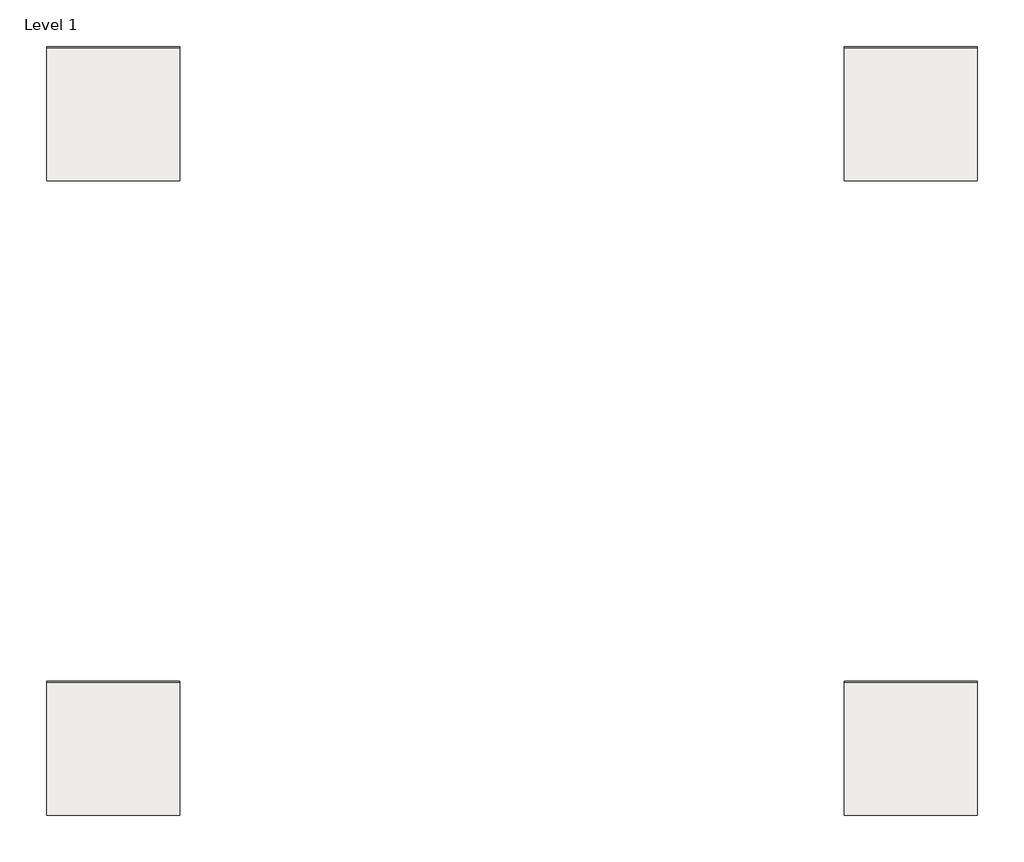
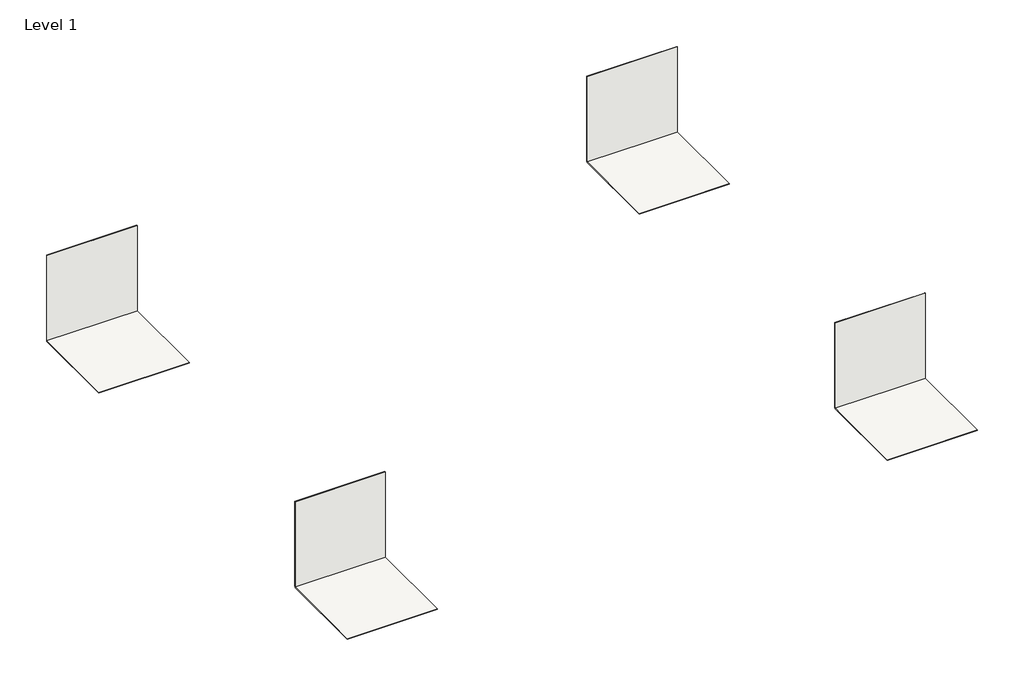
# One storey: 8 coverings.
"""IFC4 building model written with IfcOpenShell, lengths in millimetres."""

import ifcopenshell
import ifcopenshell.guid

model = None  # the IFC model being written
_history = None  # IfcOwnerHistory: only IFC2X3 demands one
_inside = {}  # id of a spatial element -> (the spatial element, [elements in it])
_under = {}  # id of a project, library or spatial element -> (it, [spatial elements below it])
_declared = {}  # id of a project -> (the project, [libraries it declares])
_typed = {}  # id of a type object -> (the type object, [elements of that type])
_made_of = {}  # id of a material, layer set ... -> (it, [elements and type objects made of it])


def new_model(schema):
    """Start an empty IFC model of exactly this schema.

    Asked for "IFC4X3", IfcOpenShell would pick the latest addendum, in which some entities
    have other attributes; the version numbers below select the first issue.
    IFC2X3 requires an IfcOwnerHistory on every rooted entity: one is made here for all.
    """
    global model, _history
    if schema == "IFC4X3":
        model = ifcopenshell.file(schema_version=(4, 3, 0, 0))
    else:
        model = ifcopenshell.file(schema=schema)
    _inside.clear()
    _under.clear()
    _declared.clear()
    _typed.clear()
    _made_of.clear()
    _history = None
    if model.schema == "IFC2X3":
        org = make("IfcOrganization", Name="unknown")
        user = make(
            "IfcPersonAndOrganization",
            ThePerson=make("IfcPerson", FamilyName="unknown"),
            TheOrganization=org,
        )
        app = make(
            "IfcApplication",
            ApplicationDeveloper=org,
            Version="unknown",
            ApplicationFullName="unknown",
            ApplicationIdentifier="unknown",
        )
        _history = make(
            "IfcOwnerHistory",
            OwningUser=user,
            OwningApplication=app,
            ChangeAction="ADDED",
            CreationDate=0,
        )
    return model


def make(cls, **values):
    """One entity of the class cls with the attributes given. An attribute that is None is left unset."""
    return model.create_entity(
        cls, **{name: value for name, value in values.items() if value is not None}
    )


def rooted(cls, **values):
    """An entity with a GlobalId (a new one), such as an element, a storey or a relation."""
    return make(cls, GlobalId=ifcopenshell.guid.new(), OwnerHistory=_history, **values)


def si_unit(unit_type, name, prefix=None):
    """IfcSIUnit, for example si_unit("LENGTHUNIT", "METRE", prefix="MILLI")."""
    return make("IfcSIUnit", UnitType=unit_type, Prefix=prefix, Name=name)


def assignment(units):
    """IfcUnitAssignment: the units of a project."""
    return None if units is None else make("IfcUnitAssignment", Units=units)


def point(xyz):
    """IfcCartesianPoint."""
    return None if xyz is None else make("IfcCartesianPoint", Coordinates=xyz)


def direction(xyz):
    """IfcDirection."""
    return None if xyz is None else make("IfcDirection", DirectionRatios=xyz)


def frame(location, z_axis=None, x_axis=None):
    """IfcAxis2Placement3D, a coordinate frame: its origin and axes. An axis left out is left unset."""
    return make(
        "IfcAxis2Placement3D",
        Location=point(location),
        Axis=direction(z_axis),
        RefDirection=direction(x_axis),
    )


def origin():
    """The frame at (0, 0, 0) with its axes left unset."""
    return frame((0.0, 0.0, 0.0))


def origin_with_axes():
    """The frame at (0, 0, 0) with the z axis (0, 0, 1) and the x axis (1, 0, 0) written out."""
    return frame((0.0, 0.0, 0.0), z_axis=(0.0, 0.0, 1.0), x_axis=(1.0, 0.0, 0.0))


def place(relative_to, where):
    """IfcLocalPlacement: puts the frame where relative to a parent placement (None: the world)."""
    return make(
        "IfcLocalPlacement", PlacementRelTo=relative_to, RelativePlacement=where
    )


def context(
    kind, dimensions, precision=None, world=None, true_north=None, identifier=None
):
    """IfcGeometricRepresentationContext, for example the 3D "Model" context."""
    return make(
        "IfcGeometricRepresentationContext",
        ContextIdentifier=identifier,
        ContextType=kind,
        CoordinateSpaceDimension=dimensions,
        Precision=precision,
        WorldCoordinateSystem=world,
        TrueNorth=true_north,
    )


def project(units=None, contexts=None):
    """IfcProject with its units and contexts."""
    return rooted(
        "IfcProject",
        Name="project",
        RepresentationContexts=contexts,
        UnitsInContext=assignment(units),
    )


def spatial(cls, under=None, at=None, **own):
    """A site, building, storey or space (cls), placed at a placement, below another one or the project."""
    s = rooted(cls, ObjectPlacement=at, **own)
    if under is not None:
        _under.setdefault(under.id(), (under, []))[1].append(s)
    return s


def polyline(points):
    """IfcPolyline through the points."""
    return make("IfcPolyline", Points=[point(p) for p in points])


def outline(outer, holes=None, kind="AREA"):
    """IfcArbitraryClosedProfileDef: a profile drawn as a closed curve; with holes, ...WithVoids."""
    if holes is None:
        return make("IfcArbitraryClosedProfileDef", ProfileType=kind, OuterCurve=outer)
    return make(
        "IfcArbitraryProfileDefWithVoids",
        ProfileType=kind,
        OuterCurve=outer,
        InnerCurves=holes,
    )


def extrude(swept, where, along, depth):
    """IfcExtrudedAreaSolid: the profile swept, set in the frame where, extruded along a direction by depth."""
    return make(
        "IfcExtrudedAreaSolid",
        SweptArea=swept,
        Position=where,
        ExtrudedDirection=direction(along),
        Depth=depth,
    )


def shape(context_of_items, identifier, shape_type, items):
    """IfcShapeRepresentation: the items that make up one representation, for example the "Body"."""
    return make(
        "IfcShapeRepresentation",
        ContextOfItems=context_of_items,
        RepresentationIdentifier=identifier,
        RepresentationType=shape_type,
        Items=items,
    )


def made_of(thing, what):
    """Note that an element or type object is made of a material, layer set ...; save() writes the relation."""
    if what is not None:
        _made_of.setdefault(what.id(), (what, []))[1].append(thing)
    return thing


def element(
    cls,
    number,
    at=None,
    inside=None,
    cuts=None,
    type_object=None,
    material=None,
    context=None,
    identifier="Body",
    shape_type=None,
    held_by="IfcProductDefinitionShape",
    body=None,
    shapes=None,
    **own,
):
    """One element of the class cls, such as IfcWall. Its Tag is "e" and its number.

    at: its placement. inside: the storey or other place that contains it. cuts: it is an
    opening in that element (IfcRelVoidsElement). A single representation is given by context,
    identifier, shape_type and body (its items); several are given by shapes. held_by: the class
    of the entity that holds the representations. save() writes the other relations.
    """
    e = rooted(cls, Tag="e%d" % number, ObjectPlacement=at, **own)
    if body is not None:
        shapes = [shape(context, identifier, shape_type, body)]
    if shapes is not None:
        e.Representation = make(held_by, Representations=shapes)
    if inside is not None:
        _inside.setdefault(inside.id(), (inside, []))[1].append(e)
    if cuts is not None:
        rooted(
            "IfcRelVoidsElement", RelatingBuildingElement=cuts, RelatedOpeningElement=e
        )
    if type_object is not None:
        _typed.setdefault(type_object.id(), (type_object, []))[1].append(e)
    return made_of(e, material)


def aggregate(whole, parts):
    """IfcRelAggregates: a whole, such as a stair, and the parts it consists of."""
    return rooted("IfcRelAggregates", RelatingObject=whole, RelatedObjects=parts)


def save(model, path):
    """Write the relations noted so far, then the file.

    IfcRelAggregates (storeys below a building ...), IfcRelContainedInSpatialStructure (elements
    in a storey), IfcRelDefinesByType, IfcRelAssociatesMaterial and IfcRelDeclares: one each for
    every whole, place, type object, material and project.
    """
    for whole, parts in _under.values():
        aggregate(whole, parts)
    for where, things in _inside.values():
        rooted(
            "IfcRelContainedInSpatialStructure",
            RelatedElements=things,
            RelatingStructure=where,
        )
    for kind, things in _typed.values():
        rooted("IfcRelDefinesByType", RelatedObjects=things, RelatingType=kind)
    for what, things in _made_of.values():
        rooted("IfcRelAssociatesMaterial", RelatedObjects=things, RelatingMaterial=what)
    for by, libraries in _declared.values():
        rooted("IfcRelDeclares", RelatingContext=by, RelatedDefinitions=libraries)
    model.write(path)


model = new_model("IFC4")

# Units and contexts
model_context = context("Model", 3, world=origin())
ifc_project = project(units=[si_unit("LENGTHUNIT", "METRE", prefix="MILLI")], contexts=[model_context])

# Site, building, storey
site = spatial("IfcSite", under=ifc_project)
building = spatial("IfcBuilding", under=site)
storey = spatial("IfcBuildingStorey", under=building, Name="Level 1", Elevation=0.0)

# Coverings
placement = place(None, origin())
element("IfcCovering", 1, ObjectType="LOVE TILES-SENSE-MOSAIC DECORATION-35X35-MATT-BEIGE", at=placement, inside=storey, context=model_context, shape_type="SweptSolid", body=[
    extrude(outline(polyline([(28997.0720096, -23254.2411714), (27997.0720096, -23254.2411714), (27997.0720096, -23246.2411714), (28997.0720096, -23246.2411714), (28997.0720096, -23254.2411714)])), origin_with_axes(), (0.0, 0.0, 1.0), 1000.0),
])
element("IfcCovering", 2, ObjectType="LOVE TILES-SENSE-MOSAIC DECORATION-35X35-MATT-GREY", at=placement, inside=storey, context=model_context, shape_type="SweptSolid", body=[
    extrude(outline(polyline([(34997.0720096, -23254.2411714), (33997.0720096, -23254.2411714), (33997.0720096, -23246.2411714), (34997.0720096, -23246.2411714), (34997.0720096, -23254.2411714)])), origin_with_axes(), (0.0, 0.0, 1.0), 1000.0),
])
element("IfcCovering", 3, ObjectType="LOVE TILES-SENSE-MOSAIC DECORATION-35X35-MATT-LIGHT GREY", at=placement, inside=storey, context=model_context, shape_type="SweptSolid", body=[
    extrude(outline(polyline([(28997.0720096, -28026.0095641), (27997.0720096, -28026.0095641), (27997.0720096, -28018.0095641), (28997.0720096, -28018.0095641), (28997.0720096, -28026.0095641)])), origin_with_axes(), (0.0, 0.0, 1.0), 1000.0),
])
element("IfcCovering", 4, ObjectType="LOVE TILES-SENSE-MOSAIC DECORATION-35X35-MATT-WHITE", at=placement, inside=storey, context=model_context, shape_type="SweptSolid", body=[
    extrude(outline(polyline([(34997.0720096, -28026.0095641), (33997.0720096, -28026.0095641), (33997.0720096, -28018.0095641), (34997.0720096, -28018.0095641), (34997.0720096, -28026.0095641)])), origin_with_axes(), (0.0, 0.0, 1.0), 1000.0),
])
element("IfcCovering", 5, ObjectType="LOVE TILES-SENSE-MOSAIC DECORATION-35X35-MATT-BEIGE", at=placement, inside=storey, context=model_context, shape_type="SweptSolid", body=[
    extrude(outline(polyline([(28997.0720096, -23254.2411714), (28997.0720096, -24254.2411714), (27997.0720096, -24254.2411714), (27997.0720096, -23254.2411714), (28997.0720096, -23254.2411714)])), frame((0.0, 0.0, -8.0), z_axis=(0.0, 0.0, 1.0), x_axis=(1.0, 0.0, 0.0)), (0.0, 0.0, 1.0), 8.0),
])
element("IfcCovering", 6, ObjectType="LOVE TILES-SENSE-MOSAIC DECORATION-35X35-MATT-GREY", at=placement, inside=storey, context=model_context, shape_type="SweptSolid", body=[
    extrude(outline(polyline([(34997.0720096, -23254.2411714), (34997.0720096, -24254.2411714), (33997.0720096, -24254.2411714), (33997.0720096, -23254.2411714), (34997.0720096, -23254.2411714)])), frame((0.0, 0.0, -8.0), z_axis=(0.0, 0.0, 1.0), x_axis=(1.0, 0.0, 0.0)), (0.0, 0.0, 1.0), 8.0),
])
element("IfcCovering", 7, ObjectType="LOVE TILES-SENSE-MOSAIC DECORATION-35X35-MATT-LIGHT GREY", at=placement, inside=storey, context=model_context, shape_type="SweptSolid", body=[
    extrude(outline(polyline([(28997.0720096, -28026.0095641), (28997.0720096, -29026.0095641), (27997.0720096, -29026.0095641), (27997.0720096, -28026.0095641), (28997.0720096, -28026.0095641)])), frame((0.0, 0.0, -8.0), z_axis=(0.0, 0.0, 1.0), x_axis=(1.0, 0.0, 0.0)), (0.0, 0.0, 1.0), 8.0),
])
element("IfcCovering", 8, ObjectType="LOVE TILES-SENSE-MOSAIC DECORATION-35X35-MATT-WHITE", at=placement, inside=storey, context=model_context, shape_type="SweptSolid", body=[
    extrude(outline(polyline([(34997.0720096, -28026.0095641), (34997.0720096, -29026.0095641), (33997.0720096, -29026.0095641), (33997.0720096, -28026.0095641), (34997.0720096, -28026.0095641)])), frame((0.0, 0.0, -8.0), z_axis=(0.0, 0.0, 1.0), x_axis=(1.0, 0.0, 0.0)), (0.0, 0.0, 1.0), 8.0),
])

save(model, "model.ifc")
